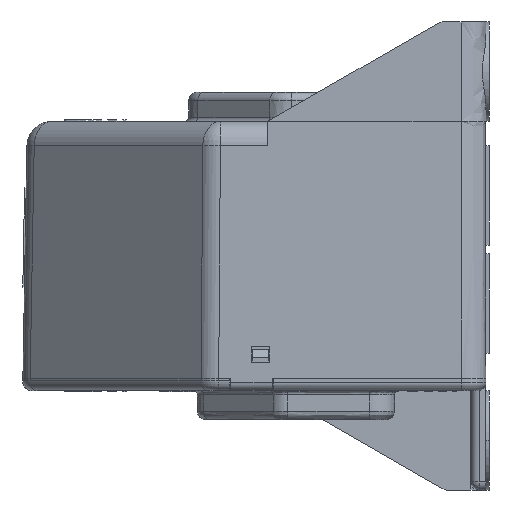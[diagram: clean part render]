
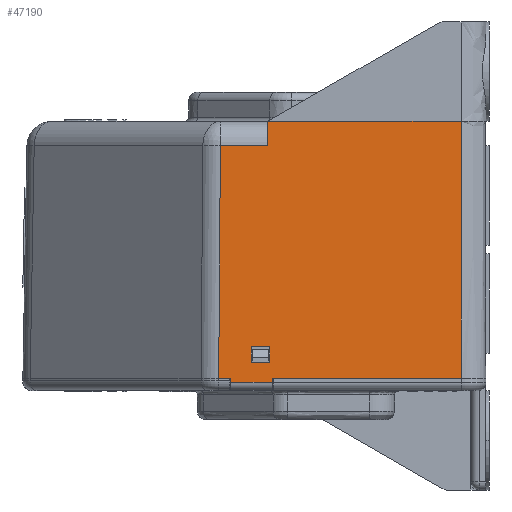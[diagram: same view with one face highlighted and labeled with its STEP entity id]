
A CAD part, left-side view. The second image highlights one B-rep face of the part: STEP entity #47190.
In plain terms, the highlighted planar face has unit normal (-1, 0, 0.018).
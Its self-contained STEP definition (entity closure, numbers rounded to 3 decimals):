
#23760=CARTESIAN_POINT('',(-33.,9.508,
5.));
#23770=VERTEX_POINT('NONE',#23760);
#23930=CARTESIAN_POINT('',(-32.51,9.305,
33.052));
#23940=VERTEX_POINT('NONE',#23930);
#23970=CARTESIAN_POINT('',(-33.003,9.509,
4.829));
#23980=DIRECTION('',(-0.017,0.007,
-1.));
#23990=VECTOR('',#23980,1000.);
#24000=LINE('',#23970,#23990);
#24010=EDGE_CURVE('NONE',#23940,#23770,#24000,.T.);
#24250=CARTESIAN_POINT('',(-33.,8.05,5.));
#24260=VERTEX_POINT('NONE',#24250);
#24290=CARTESIAN_POINT('',(-33.026,8.05,
3.5));
#24300=DIRECTION('',(0.017,0.,1.));
#24310=VECTOR('',#24300,1000.);
#24320=LINE('',#24290,#24310);
#24330=CARTESIAN_POINT('',(-33.008,8.05,
4.517));
#24340=VERTEX_POINT('NONE',#24330);
#24350=EDGE_CURVE('NONE',#24340,#24260,#24320,.T.);
#36410=CARTESIAN_POINT('',(-32.51,3.571,
33.052));
#36420=VERTEX_POINT('NONE',#36410);
#36450=CARTESIAN_POINT('',(-32.51,33.15,33.052));
#36460=DIRECTION('',(0.,1.,0.));
#36470=VECTOR('',#36460,1000.);
#36480=LINE('',#36450,#36470);
#36490=EDGE_CURVE('NONE',#36420,#23940,#36480,.T.);
#39480=CARTESIAN_POINT('',(-33.087,3.571,0.));
#39490=DIRECTION('',(-0.017,0.,-1.));
#39500=VECTOR('',#39490,1.);
#39510=LINE('',#39480,#39500);
#39520=CARTESIAN_POINT('',(-32.459,3.571,36.));
#39530=VERTEX_POINT('',#39520);
#39540=EDGE_CURVE('NONE',#39530,#36420,#39510,.T.);
#42900=CARTESIAN_POINT('',(-32.967,5.55,6.9));
#42910=VERTEX_POINT('NONE',#42900);
#43080=CARTESIAN_POINT('',(-32.967,3.35,6.9));
#43090=VERTEX_POINT('NONE',#43080);
#43120=CARTESIAN_POINT('',(-32.967,5.55,6.9));
#43130=DIRECTION('',(0.,-1.,0.));
#43140=VECTOR('',#43130,1000.);
#43150=LINE('',#43120,#43140);
#43160=EDGE_CURVE('NONE',#42910,#43090,#43150,.T.);
#43320=CARTESIAN_POINT('',(-33.,3.05,5.));
#43330=VERTEX_POINT('NONE',#43320);
#43480=CARTESIAN_POINT('',(-33.008,3.05,
4.517));
#43490=VERTEX_POINT('NONE',#43480);
#43520=CARTESIAN_POINT('',(-33.,3.05,5.));
#43530=DIRECTION('',(0.017,0.,1.));
#43540=VECTOR('',#43530,1000.);
#43550=LINE('',#43520,#43540);
#43560=EDGE_CURVE('NONE',#43490,#43330,#43550,.T.);
#43700=CARTESIAN_POINT('',(-32.934,5.55,8.8));
#43710=VERTEX_POINT('NONE',#43700);
#43830=CARTESIAN_POINT('',(-32.967,5.55,
6.899));
#43840=DIRECTION('',(-0.017,0.,-1.));
#43850=VECTOR('',#43840,1000.);
#43860=LINE('',#43830,#43850);
#43870=EDGE_CURVE('NONE',#43710,#42910,#43860,.T.);
#44100=CARTESIAN_POINT('',(-32.934,3.35,8.8));
#44110=VERTEX_POINT('NONE',#44100);
#44140=CARTESIAN_POINT('',(-32.967,3.35,
6.899));
#44150=DIRECTION('',(0.017,0.,
1.));
#44160=VECTOR('',#44150,1000.);
#44170=LINE('',#44140,#44160);
#44180=EDGE_CURVE('NONE',#43090,#44110,#44170,.T.);
#44360=CARTESIAN_POINT('',(-32.934,5.55,8.8));
#44370=DIRECTION('',(0.,1.,0.));
#44380=VECTOR('',#44370,1000.);
#44390=LINE('',#44360,#44380);
#44400=EDGE_CURVE('NONE',#44110,#43710,#44390,.T.);
#45610=CARTESIAN_POINT('',(-33.008,3.05,
4.517));
#45620=DIRECTION('',(0.,-1.,0.));
#45630=VECTOR('',#45620,1000.);
#45640=LINE('',#45610,#45630);
#45650=EDGE_CURVE('NONE',#24340,#43490,#45640,.T.);
#46510=CARTESIAN_POINT('',(-33.,33.15,5.));
#46520=DIRECTION('',(-1.,0.,0.017));
#46530=DIRECTION('',(0.017,0.,1.));
#46540=AXIS2_PLACEMENT_3D('',#46510,#46520,#46530);
#46550=PLANE('',#46540);
#46560=ORIENTED_EDGE('',*,*,#44180,.F.);
#46570=ORIENTED_EDGE('',*,*,#44400,.F.);
#46580=ORIENTED_EDGE('',*,*,#43870,.F.);
#46590=ORIENTED_EDGE('',*,*,#43160,.F.);
#46600=EDGE_LOOP('',(#46590,#46580,#46570,#46560));
#46610=FACE_BOUND('',#46600,.T.);
#46620=CARTESIAN_POINT('',(-33.,0.,5.));
#46630=DIRECTION('',(0.,-1.,0.));
#46640=VECTOR('',#46630,1.);
#46650=LINE('',#46620,#46640);
#46660=CARTESIAN_POINT('',(-33.,2.95,5.));
#46670=VERTEX_POINT('',#46660);
#46680=CARTESIAN_POINT('',(-33.,-19.75,5.));
#46690=VERTEX_POINT('',#46680);
#46700=EDGE_CURVE('',#46670,#46690,#46650,.T.);
#46710=ORIENTED_EDGE('',*,*,#46700,.T.);
#46720=CARTESIAN_POINT('',(-33.,0.,5.));
#46730=DIRECTION('',(0.,1.,0.));
#46740=VECTOR('',#46730,1.);
#46750=LINE('',#46720,#46740);
#46760=EDGE_CURVE('NONE',#46670,#43330,#46750,.T.);
#46770=ORIENTED_EDGE('',*,*,#46760,.F.);
#46780=ORIENTED_EDGE('',*,*,#43560,.T.);
#46790=ORIENTED_EDGE('',*,*,#45650,.T.);
#46800=ORIENTED_EDGE('',*,*,#24350,.F.);
#46810=CARTESIAN_POINT('',(-33.,33.15,5.));
#46820=DIRECTION('',(0.,1.,0.));
#46830=VECTOR('',#46820,1000.);
#46840=LINE('',#46810,#46830);
#46850=CARTESIAN_POINT('',(-33.,8.15,5.));
#46860=VERTEX_POINT('',#46850);
#46870=EDGE_CURVE('',#24260,#46860,#46840,.T.);
#46880=ORIENTED_EDGE('',*,*,#46870,.F.);
#46890=CARTESIAN_POINT('',(-33.,0.,5.));
#46900=DIRECTION('',(0.,-1.,0.));
#46910=VECTOR('',#46900,1.);
#46920=LINE('',#46890,#46910);
#46930=EDGE_CURVE('NONE',#23770,#46860,#46920,.T.);
#46940=ORIENTED_EDGE('',*,*,#46930,.T.);
#46950=ORIENTED_EDGE('',*,*,#24010,.T.);
#46960=ORIENTED_EDGE('',*,*,#36490,.T.);
#46970=ORIENTED_EDGE('',*,*,#39540,.T.);
#46980=CARTESIAN_POINT('',(-32.459,3.571,36.));
#46990=DIRECTION('',(0.,-1.,0.));
#47000=VECTOR('',#46990,1000.);
#47010=LINE('',#46980,#47000);
#47020=CARTESIAN_POINT('',(-32.459,-19.75,36.));
#47030=VERTEX_POINT('',#47020);
#47040=EDGE_CURVE('',#39530,#47030,#47010,.T.);
#47050=ORIENTED_EDGE('',*,*,#47040,.F.);
#47060=CARTESIAN_POINT('',(-32.459,-19.75,36.));
#47070=CARTESIAN_POINT('',(-32.462,-19.75,
35.825));
#47080=CARTESIAN_POINT('',(-32.465,-19.75,
35.655));
#47090=CARTESIAN_POINT('',(-32.555,-19.75,
30.467));
#47100=CARTESIAN_POINT('',(-32.643,-19.75,
25.459));
#47110=CARTESIAN_POINT('',(-32.838,-19.75,
14.3));
#47120=CARTESIAN_POINT('',(-32.945,-19.75,
8.15));
#47130=CARTESIAN_POINT('',(-33.052,-19.75,
2.));
#47140=B_SPLINE_CURVE_WITH_KNOTS('',3,(#47060,#47070,#47080,#47090,
#47100,#47110,#47120,#47130),.UNSPECIFIED.,.F.,.F.,(4,2,2,4),(
-310.047,-309.51,-294.482,-276.03)
,.UNSPECIFIED.);
#47150=EDGE_CURVE('',#47030,#46690,#47140,.T.);
#47160=ORIENTED_EDGE('',*,*,#47150,.F.);
#47170=EDGE_LOOP('',(#47160,#47050,#46970,#46960,#46950,#46940,#46880,
#46800,#46790,#46780,#46770,#46710));
#47180=FACE_OUTER_BOUND('',#47170,.T.);
#47190=ADVANCED_FACE('',(#46610,#47180),#46550,.T.);
